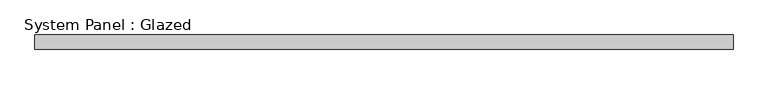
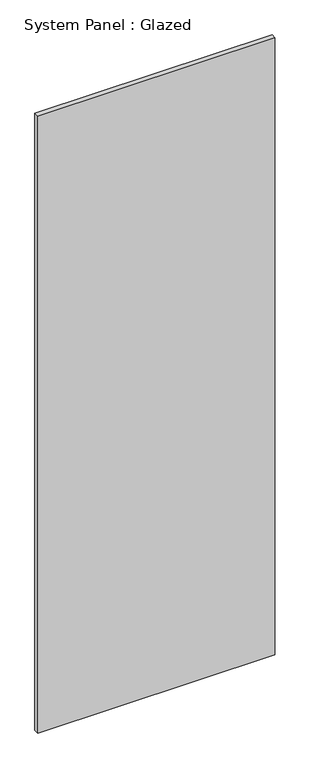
"""IFC4 building model written with IfcOpenShell, lengths in millimetres: plate geometry, System Panel : Glazed."""

from ifc_helpers import new_model, si_unit, origin, origin_with_axes, place, context, project, spatial, polyline, outline, extrude, source, transform, mapped, element, save


def system_panel_glazed_84f5b725(model_context):
    return source(origin(), model_context, "Body", "SweptSolid", [
        extrude(outline(polyline([(600.0, 24.5), (-600.0, 24.5), (-600.0, 49.5), (600.0, 49.5), (600.0, 24.5)])), origin_with_axes(), (0.0, 0.0, 1.0), 3300.0),
    ])


if __name__ == "__main__":
    model = new_model("IFC4")
    model_context = context("Model", 3, world=origin())
    ifc_project = project(units=[si_unit("LENGTHUNIT", "METRE", prefix="MILLI")], contexts=[model_context])
    site = spatial("IfcSite", under=ifc_project)
    building = spatial("IfcBuilding", under=site)
    placement = place(None, origin())
    system_panel_glazed_shape = system_panel_glazed_84f5b725(model_context)
    element("IfcPlate", 1, ObjectType="System Panel : Glazed", at=placement, inside=building, context=model_context, shape_type="MappedRepresentation", body=[
        mapped(system_panel_glazed_shape, transform((0.0, 0.0, 0.0), x_axis=(1.0, 0.0, 0.0), y_axis=(0.0, 1.0, 0.0), z_axis=(0.0, 0.0, 1.0))),
    ])
    save(model, "model.ifc")
